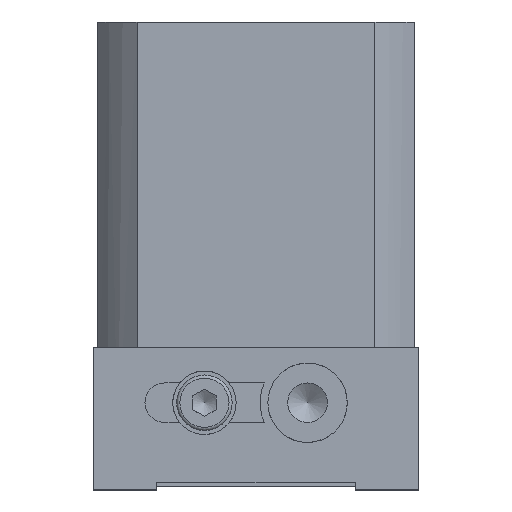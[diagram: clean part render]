
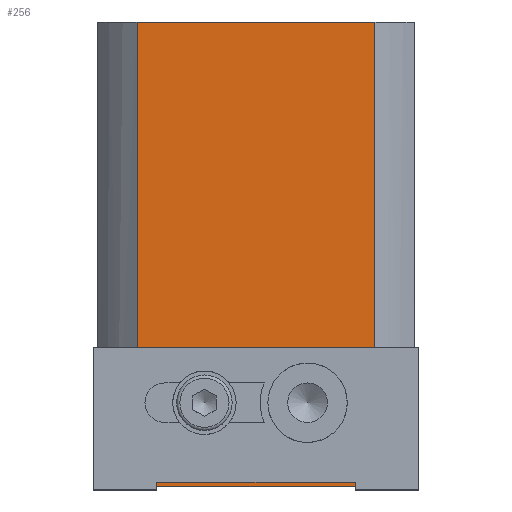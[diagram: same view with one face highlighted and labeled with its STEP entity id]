
A CAD part, left-side view. The second image highlights one B-rep face of the part: STEP entity #256.
In plain terms, the highlighted planar face has unit normal (-1, 0, 0).
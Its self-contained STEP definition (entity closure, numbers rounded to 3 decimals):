
#171=CARTESIAN_POINT('',(-20.0,26.5,-43.));
#172=VERTEX_POINT('',#171);
#173=CARTESIAN_POINT('',(-20.0,26.5,-48.));
#174=DIRECTION('',(1.0,0.0,0.0));
#175=DIRECTION('',(0.0,0.0,-1.0));
#176=AXIS2_PLACEMENT_3D('',#173,#174,#175);
#177=CIRCLE('',#176,5.0);
#178=EDGE_CURVE('',#172,#172,#177,.T.);
#203=CARTESIAN_POINT('',(-20.,35.,0.0));
#204=DIRECTION('',(-1.0,0.0,0.0));
#205=DIRECTION('',(0.0,0.0,1.0));
#206=AXIS2_PLACEMENT_3D('',#203,#204,#205);
#207=PLANE('',#206);
#208=CARTESIAN_POINT('',(-20.,5.,0.0));
#209=VERTEX_POINT('',#208);
#210=CARTESIAN_POINT('',(-20.,5.,-58.5));
#211=VERTEX_POINT('',#210);
#212=CARTESIAN_POINT('',(-20.,5.,0.0));
#213=DIRECTION('',(0.0,0.0,-1.0));
#214=VECTOR('',#213,58.5);
#215=LINE('',#212,#214);
#216=EDGE_CURVE('',#209,#211,#215,.T.);
#217=ORIENTED_EDGE('',*,*,#216,.F.);
#218=CARTESIAN_POINT('',(-20.,35.,0.0));
#219=VERTEX_POINT('',#218);
#220=CARTESIAN_POINT('',(-20.,35.,0.0));
#221=DIRECTION('',(0.0,-1.0,0.0));
#222=VECTOR('',#221,30.);
#223=LINE('',#220,#222);
#224=EDGE_CURVE('',#219,#209,#223,.T.);
#225=ORIENTED_EDGE('',*,*,#224,.F.);
#226=CARTESIAN_POINT('',(-20.0,35.,-58.5));
#227=VERTEX_POINT('',#226);
#228=CARTESIAN_POINT('',(-20.,35.,0.0));
#229=DIRECTION('',(0.0,0.0,-1.0));
#230=VECTOR('',#229,58.5);
#231=LINE('',#228,#230);
#232=EDGE_CURVE('',#219,#227,#231,.T.);
#233=ORIENTED_EDGE('',*,*,#232,.T.);
#234=CARTESIAN_POINT('',(-20.0,35.,-58.5));
#235=DIRECTION('',(0.0,-1.0,0.0));
#236=VECTOR('',#235,30.);
#237=LINE('',#234,#236);
#238=EDGE_CURVE('',#227,#211,#237,.T.);
#239=ORIENTED_EDGE('',*,*,#238,.T.);
#240=EDGE_LOOP('',(#217,#225,#233,#239));
#241=FACE_OUTER_BOUND('',#240,.T.);
#242=CARTESIAN_POINT('',(-20.,13.5,-43.));
#243=VERTEX_POINT('',#242);
#244=CARTESIAN_POINT('',(-20.,13.5,-48.));
#245=DIRECTION('',(1.0,0.0,0.0));
#246=DIRECTION('',(0.0,0.0,-1.0));
#247=AXIS2_PLACEMENT_3D('',#244,#245,#246);
#248=CIRCLE('',#247,5.0);
#249=EDGE_CURVE('',#243,#243,#248,.T.);
#250=ORIENTED_EDGE('',*,*,#249,.T.);
#251=EDGE_LOOP('',(#250));
#252=FACE_BOUND('',#251,.T.);
#253=ORIENTED_EDGE('',*,*,#178,.T.);
#254=EDGE_LOOP('',(#253));
#255=FACE_BOUND('',#254,.T.);
#256=ADVANCED_FACE('',(#241,#252,#255),#207,.T.);
